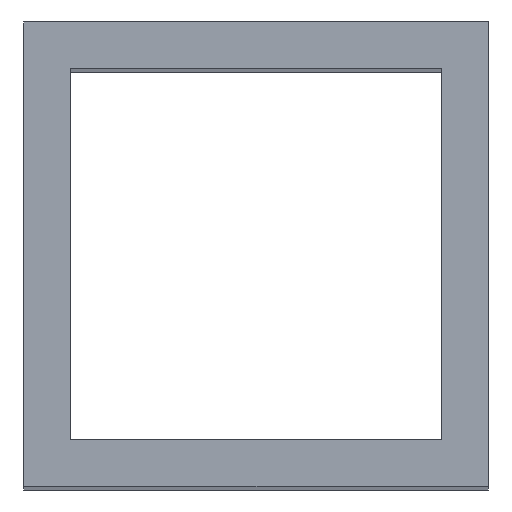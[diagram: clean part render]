
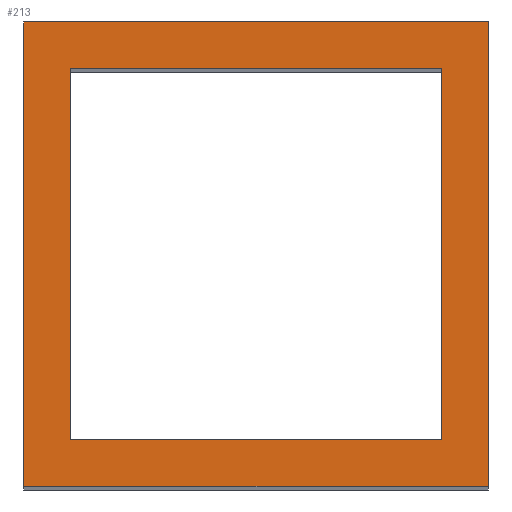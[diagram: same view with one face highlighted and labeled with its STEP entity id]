
A CAD part, top view. The second image highlights one B-rep face of the part: STEP entity #213.
In plain terms, the highlighted planar face has unit normal (0, 0, 1).
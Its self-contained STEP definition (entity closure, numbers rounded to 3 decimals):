
#24 = VERTEX_POINT('',#25);
#25 = CARTESIAN_POINT('',(-630.,-330.,-12.));
#32 = PLANE('',#33);
#33 = AXIS2_PLACEMENT_3D('',#34,#35,#36);
#34 = CARTESIAN_POINT('',(-630.,-330.,-152.));
#35 = DIRECTION('',(1.,0.,-0.));
#36 = DIRECTION('',(0.,0.,1.));
#44 = PLANE('',#45);
#45 = AXIS2_PLACEMENT_3D('',#46,#47,#48);
#46 = CARTESIAN_POINT('',(-630.,-330.,-152.));
#47 = DIRECTION('',(-0.,1.,0.));
#48 = DIRECTION('',(0.,0.,1.));
#85 = VERTEX_POINT('',#86);
#86 = CARTESIAN_POINT('',(-630.,-300.,-12.));
#100 = PLANE('',#101);
#101 = AXIS2_PLACEMENT_3D('',#102,#103,#104);
#102 = CARTESIAN_POINT('',(-630.,-300.,-152.));
#103 = DIRECTION('',(-0.,1.,0.));
#104 = DIRECTION('',(0.,0.,1.));
#112 = EDGE_CURVE('',#24,#85,#113,.T.);
#113 = SURFACE_CURVE('',#114,(#118,#125),.PCURVE_S1.);
#114 = LINE('',#115,#116);
#115 = CARTESIAN_POINT('',(-630.,-330.,-12.));
#116 = VECTOR('',#117,1.);
#117 = DIRECTION('',(-0.,1.,0.));
#118 = PCURVE('',#32,#119);
#119 = DEFINITIONAL_REPRESENTATION('',(#120),#124);
#120 = LINE('',#121,#122);
#121 = CARTESIAN_POINT('',(140.,0.));
#122 = VECTOR('',#123,1.);
#123 = DIRECTION('',(0.,-1.));
#124 = ( GEOMETRIC_REPRESENTATION_CONTEXT(2) 
PARAMETRIC_REPRESENTATION_CONTEXT() REPRESENTATION_CONTEXT('2D SPACE',''
  ) );
#125 = PCURVE('',#126,#131);
#126 = PLANE('',#127);
#127 = AXIS2_PLACEMENT_3D('',#128,#129,#130);
#128 = CARTESIAN_POINT('',(-630.,-330.,-12.));
#129 = DIRECTION('',(0.,0.,1.));
#130 = DIRECTION('',(1.,0.,-0.));
#131 = DEFINITIONAL_REPRESENTATION('',(#132),#136);
#132 = LINE('',#133,#134);
#133 = CARTESIAN_POINT('',(0.,0.));
#134 = VECTOR('',#135,1.);
#135 = DIRECTION('',(0.,1.));
#136 = ( GEOMETRIC_REPRESENTATION_CONTEXT(2) 
PARAMETRIC_REPRESENTATION_CONTEXT() REPRESENTATION_CONTEXT('2D SPACE',''
  ) );
#165 = EDGE_CURVE('',#24,#166,#168,.T.);
#166 = VERTEX_POINT('',#167);
#167 = CARTESIAN_POINT('',(-600.,-330.,-12.));
#168 = SURFACE_CURVE('',#169,(#173,#180),.PCURVE_S1.);
#169 = LINE('',#170,#171);
#170 = CARTESIAN_POINT('',(-630.,-330.,-12.));
#171 = VECTOR('',#172,1.);
#172 = DIRECTION('',(1.,0.,-0.));
#173 = PCURVE('',#44,#174);
#174 = DEFINITIONAL_REPRESENTATION('',(#175),#179);
#175 = LINE('',#176,#177);
#176 = CARTESIAN_POINT('',(140.,0.));
#177 = VECTOR('',#178,1.);
#178 = DIRECTION('',(0.,1.));
#179 = ( GEOMETRIC_REPRESENTATION_CONTEXT(2) 
PARAMETRIC_REPRESENTATION_CONTEXT() REPRESENTATION_CONTEXT('2D SPACE',''
  ) );
#180 = PCURVE('',#126,#181);
#181 = DEFINITIONAL_REPRESENTATION('',(#182),#186);
#182 = LINE('',#183,#184);
#183 = CARTESIAN_POINT('',(0.,0.));
#184 = VECTOR('',#185,1.);
#185 = DIRECTION('',(1.,0.));
#186 = ( GEOMETRIC_REPRESENTATION_CONTEXT(2) 
PARAMETRIC_REPRESENTATION_CONTEXT() REPRESENTATION_CONTEXT('2D SPACE',''
  ) );
#202 = PLANE('',#203);
#203 = AXIS2_PLACEMENT_3D('',#204,#205,#206);
#204 = CARTESIAN_POINT('',(-600.,-330.,-152.));
#205 = DIRECTION('',(1.,0.,-0.));
#206 = DIRECTION('',(0.,0.,1.));
#213 = ADVANCED_FACE('',(#214,#262),#126,.T.);
#214 = FACE_BOUND('',#215,.T.);
#215 = EDGE_LOOP('',(#216,#217,#218,#241));
#216 = ORIENTED_EDGE('',*,*,#112,.F.);
#217 = ORIENTED_EDGE('',*,*,#165,.T.);
#218 = ORIENTED_EDGE('',*,*,#219,.T.);
#219 = EDGE_CURVE('',#166,#220,#222,.T.);
#220 = VERTEX_POINT('',#221);
#221 = CARTESIAN_POINT('',(-600.,-300.,-12.));
#222 = SURFACE_CURVE('',#223,(#227,#234),.PCURVE_S1.);
#223 = LINE('',#224,#225);
#224 = CARTESIAN_POINT('',(-600.,-330.,-12.));
#225 = VECTOR('',#226,1.);
#226 = DIRECTION('',(-0.,1.,0.));
#227 = PCURVE('',#126,#228);
#228 = DEFINITIONAL_REPRESENTATION('',(#229),#233);
#229 = LINE('',#230,#231);
#230 = CARTESIAN_POINT('',(30.,0.));
#231 = VECTOR('',#232,1.);
#232 = DIRECTION('',(0.,1.));
#233 = ( GEOMETRIC_REPRESENTATION_CONTEXT(2) 
PARAMETRIC_REPRESENTATION_CONTEXT() REPRESENTATION_CONTEXT('2D SPACE',''
  ) );
#234 = PCURVE('',#202,#235);
#235 = DEFINITIONAL_REPRESENTATION('',(#236),#240);
#236 = LINE('',#237,#238);
#237 = CARTESIAN_POINT('',(140.,0.));
#238 = VECTOR('',#239,1.);
#239 = DIRECTION('',(0.,-1.));
#240 = ( GEOMETRIC_REPRESENTATION_CONTEXT(2) 
PARAMETRIC_REPRESENTATION_CONTEXT() REPRESENTATION_CONTEXT('2D SPACE',''
  ) );
#241 = ORIENTED_EDGE('',*,*,#242,.F.);
#242 = EDGE_CURVE('',#85,#220,#243,.T.);
#243 = SURFACE_CURVE('',#244,(#248,#255),.PCURVE_S1.);
#244 = LINE('',#245,#246);
#245 = CARTESIAN_POINT('',(-630.,-300.,-12.));
#246 = VECTOR('',#247,1.);
#247 = DIRECTION('',(1.,0.,-0.));
#248 = PCURVE('',#126,#249);
#249 = DEFINITIONAL_REPRESENTATION('',(#250),#254);
#250 = LINE('',#251,#252);
#251 = CARTESIAN_POINT('',(0.,30.));
#252 = VECTOR('',#253,1.);
#253 = DIRECTION('',(1.,0.));
#254 = ( GEOMETRIC_REPRESENTATION_CONTEXT(2) 
PARAMETRIC_REPRESENTATION_CONTEXT() REPRESENTATION_CONTEXT('2D SPACE',''
  ) );
#255 = PCURVE('',#100,#256);
#256 = DEFINITIONAL_REPRESENTATION('',(#257),#261);
#257 = LINE('',#258,#259);
#258 = CARTESIAN_POINT('',(140.,0.));
#259 = VECTOR('',#260,1.);
#260 = DIRECTION('',(0.,1.));
#261 = ( GEOMETRIC_REPRESENTATION_CONTEXT(2) 
PARAMETRIC_REPRESENTATION_CONTEXT() REPRESENTATION_CONTEXT('2D SPACE',''
  ) );
#262 = FACE_BOUND('',#263,.T.);
#263 = EDGE_LOOP('',(#264,#292,#318,#344));
#264 = ORIENTED_EDGE('',*,*,#265,.T.);
#265 = EDGE_CURVE('',#266,#268,#270,.T.);
#266 = VERTEX_POINT('',#267);
#267 = CARTESIAN_POINT('',(-603.,-327.,-12.));
#268 = VERTEX_POINT('',#269);
#269 = CARTESIAN_POINT('',(-627.,-327.,-12.));
#270 = SURFACE_CURVE('',#271,(#275,#281),.PCURVE_S1.);
#271 = LINE('',#272,#273);
#272 = CARTESIAN_POINT('',(-628.5,-327.,-12.));
#273 = VECTOR('',#274,1.);
#274 = DIRECTION('',(-1.,-0.,0.));
#275 = PCURVE('',#126,#276);
#276 = DEFINITIONAL_REPRESENTATION('',(#277),#280);
#277 = B_SPLINE_CURVE_WITH_KNOTS('',1,(#278,#279),.UNSPECIFIED.,.F.,.F.,
  (2,2),(-25.5,-1.5),.PIECEWISE_BEZIER_KNOTS.);
#278 = CARTESIAN_POINT('',(27.,3.));
#279 = CARTESIAN_POINT('',(3.,3.));
#280 = ( GEOMETRIC_REPRESENTATION_CONTEXT(2) 
PARAMETRIC_REPRESENTATION_CONTEXT() REPRESENTATION_CONTEXT('2D SPACE',''
  ) );
#281 = PCURVE('',#282,#287);
#282 = PLANE('',#283);
#283 = AXIS2_PLACEMENT_3D('',#284,#285,#286);
#284 = CARTESIAN_POINT('',(-627.,-327.,-153.));
#285 = DIRECTION('',(-0.,1.,0.));
#286 = DIRECTION('',(0.,0.,1.));
#287 = DEFINITIONAL_REPRESENTATION('',(#288),#291);
#288 = B_SPLINE_CURVE_WITH_KNOTS('',1,(#289,#290),.UNSPECIFIED.,.F.,.F.,
  (2,2),(-25.5,-1.5),.PIECEWISE_BEZIER_KNOTS.);
#289 = CARTESIAN_POINT('',(141.,24.));
#290 = CARTESIAN_POINT('',(141.,0.));
#291 = ( GEOMETRIC_REPRESENTATION_CONTEXT(2) 
PARAMETRIC_REPRESENTATION_CONTEXT() REPRESENTATION_CONTEXT('2D SPACE',''
  ) );
#292 = ORIENTED_EDGE('',*,*,#293,.T.);
#293 = EDGE_CURVE('',#268,#294,#296,.T.);
#294 = VERTEX_POINT('',#295);
#295 = CARTESIAN_POINT('',(-627.,-303.,-12.));
#296 = SURFACE_CURVE('',#297,(#301,#307),.PCURVE_S1.);
#297 = LINE('',#298,#299);
#298 = CARTESIAN_POINT('',(-627.,-328.5,-12.));
#299 = VECTOR('',#300,1.);
#300 = DIRECTION('',(-0.,1.,0.));
#301 = PCURVE('',#126,#302);
#302 = DEFINITIONAL_REPRESENTATION('',(#303),#306);
#303 = B_SPLINE_CURVE_WITH_KNOTS('',1,(#304,#305),.UNSPECIFIED.,.F.,.F.,
  (2,2),(1.5,25.5),.PIECEWISE_BEZIER_KNOTS.);
#304 = CARTESIAN_POINT('',(3.,3.));
#305 = CARTESIAN_POINT('',(3.,27.));
#306 = ( GEOMETRIC_REPRESENTATION_CONTEXT(2) 
PARAMETRIC_REPRESENTATION_CONTEXT() REPRESENTATION_CONTEXT('2D SPACE',''
  ) );
#307 = PCURVE('',#308,#313);
#308 = PLANE('',#309);
#309 = AXIS2_PLACEMENT_3D('',#310,#311,#312);
#310 = CARTESIAN_POINT('',(-627.,-327.,-153.));
#311 = DIRECTION('',(1.,0.,-0.));
#312 = DIRECTION('',(0.,0.,1.));
#313 = DEFINITIONAL_REPRESENTATION('',(#314),#317);
#314 = B_SPLINE_CURVE_WITH_KNOTS('',1,(#315,#316),.UNSPECIFIED.,.F.,.F.,
  (2,2),(1.5,25.5),.PIECEWISE_BEZIER_KNOTS.);
#315 = CARTESIAN_POINT('',(141.,0.));
#316 = CARTESIAN_POINT('',(141.,-24.));
#317 = ( GEOMETRIC_REPRESENTATION_CONTEXT(2) 
PARAMETRIC_REPRESENTATION_CONTEXT() REPRESENTATION_CONTEXT('2D SPACE',''
  ) );
#318 = ORIENTED_EDGE('',*,*,#319,.F.);
#319 = EDGE_CURVE('',#320,#294,#322,.T.);
#320 = VERTEX_POINT('',#321);
#321 = CARTESIAN_POINT('',(-603.,-303.,-12.));
#322 = SURFACE_CURVE('',#323,(#327,#333),.PCURVE_S1.);
#323 = LINE('',#324,#325);
#324 = CARTESIAN_POINT('',(-628.5,-303.,-12.));
#325 = VECTOR('',#326,1.);
#326 = DIRECTION('',(-1.,-0.,0.));
#327 = PCURVE('',#126,#328);
#328 = DEFINITIONAL_REPRESENTATION('',(#329),#332);
#329 = B_SPLINE_CURVE_WITH_KNOTS('',1,(#330,#331),.UNSPECIFIED.,.F.,.F.,
  (2,2),(-25.5,-1.5),.PIECEWISE_BEZIER_KNOTS.);
#330 = CARTESIAN_POINT('',(27.,27.));
#331 = CARTESIAN_POINT('',(3.,27.));
#332 = ( GEOMETRIC_REPRESENTATION_CONTEXT(2) 
PARAMETRIC_REPRESENTATION_CONTEXT() REPRESENTATION_CONTEXT('2D SPACE',''
  ) );
#333 = PCURVE('',#334,#339);
#334 = PLANE('',#335);
#335 = AXIS2_PLACEMENT_3D('',#336,#337,#338);
#336 = CARTESIAN_POINT('',(-627.,-303.,-153.));
#337 = DIRECTION('',(-0.,1.,0.));
#338 = DIRECTION('',(0.,0.,1.));
#339 = DEFINITIONAL_REPRESENTATION('',(#340),#343);
#340 = B_SPLINE_CURVE_WITH_KNOTS('',1,(#341,#342),.UNSPECIFIED.,.F.,.F.,
  (2,2),(-25.5,-1.5),.PIECEWISE_BEZIER_KNOTS.);
#341 = CARTESIAN_POINT('',(141.,24.));
#342 = CARTESIAN_POINT('',(141.,0.));
#343 = ( GEOMETRIC_REPRESENTATION_CONTEXT(2) 
PARAMETRIC_REPRESENTATION_CONTEXT() REPRESENTATION_CONTEXT('2D SPACE',''
  ) );
#344 = ORIENTED_EDGE('',*,*,#345,.F.);
#345 = EDGE_CURVE('',#266,#320,#346,.T.);
#346 = SURFACE_CURVE('',#347,(#351,#357),.PCURVE_S1.);
#347 = LINE('',#348,#349);
#348 = CARTESIAN_POINT('',(-603.,-328.5,-12.));
#349 = VECTOR('',#350,1.);
#350 = DIRECTION('',(-0.,1.,0.));
#351 = PCURVE('',#126,#352);
#352 = DEFINITIONAL_REPRESENTATION('',(#353),#356);
#353 = B_SPLINE_CURVE_WITH_KNOTS('',1,(#354,#355),.UNSPECIFIED.,.F.,.F.,
  (2,2),(1.5,25.5),.PIECEWISE_BEZIER_KNOTS.);
#354 = CARTESIAN_POINT('',(27.,3.));
#355 = CARTESIAN_POINT('',(27.,27.));
#356 = ( GEOMETRIC_REPRESENTATION_CONTEXT(2) 
PARAMETRIC_REPRESENTATION_CONTEXT() REPRESENTATION_CONTEXT('2D SPACE',''
  ) );
#357 = PCURVE('',#358,#363);
#358 = PLANE('',#359);
#359 = AXIS2_PLACEMENT_3D('',#360,#361,#362);
#360 = CARTESIAN_POINT('',(-603.,-327.,-153.));
#361 = DIRECTION('',(1.,0.,-0.));
#362 = DIRECTION('',(0.,0.,1.));
#363 = DEFINITIONAL_REPRESENTATION('',(#364),#367);
#364 = B_SPLINE_CURVE_WITH_KNOTS('',1,(#365,#366),.UNSPECIFIED.,.F.,.F.,
  (2,2),(1.5,25.5),.PIECEWISE_BEZIER_KNOTS.);
#365 = CARTESIAN_POINT('',(141.,0.));
#366 = CARTESIAN_POINT('',(141.,-24.));
#367 = ( GEOMETRIC_REPRESENTATION_CONTEXT(2) 
PARAMETRIC_REPRESENTATION_CONTEXT() REPRESENTATION_CONTEXT('2D SPACE',''
  ) );
